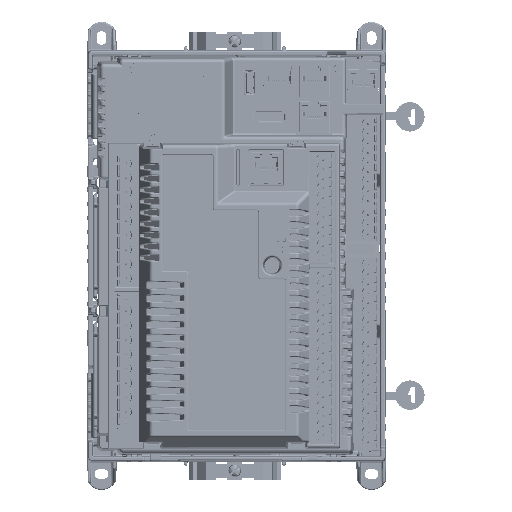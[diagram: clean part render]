
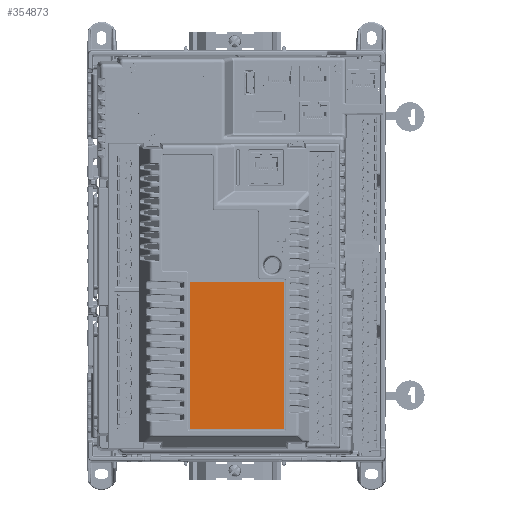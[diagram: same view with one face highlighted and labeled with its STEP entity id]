
A CAD part, left-side view. The second image highlights one B-rep face of the part: STEP entity #354873.
In plain terms, the highlighted planar face has unit normal (-1, 0, 0).
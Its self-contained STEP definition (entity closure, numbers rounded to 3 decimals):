
#43913=FACE_OUTER_BOUND('',#64486,.T.);
#64486=EDGE_LOOP('',(#320725,#320726,#320727,#320728));
#101707=LINE('',#738825,#135317);
#101709=LINE('',#738829,#135319);
#101711=LINE('',#738833,#135321);
#101713=LINE('',#738836,#135323);
#135317=VECTOR('',#470613,10.);
#135319=VECTOR('',#470617,10.);
#135321=VECTOR('',#470621,10.);
#135323=VECTOR('',#470625,10.);
#167777=VERTEX_POINT('',#738822);
#167778=VERTEX_POINT('',#738824);
#167779=VERTEX_POINT('',#738828);
#167780=VERTEX_POINT('',#738832);
#218985=EDGE_CURVE('',#167778,#167777,#101707,.T.);
#218987=EDGE_CURVE('',#167779,#167778,#101709,.T.);
#218989=EDGE_CURVE('',#167780,#167779,#101711,.T.);
#218991=EDGE_CURVE('',#167777,#167780,#101713,.T.);
#320725=ORIENTED_EDGE('',*,*,#218991,.T.);
#320726=ORIENTED_EDGE('',*,*,#218989,.T.);
#320727=ORIENTED_EDGE('',*,*,#218987,.T.);
#320728=ORIENTED_EDGE('',*,*,#218985,.T.);
#336266=PLANE('',#382952);
#354873=ADVANCED_FACE('',(#43913),#336266,.T.);
#382952=AXIS2_PLACEMENT_3D('',#738837,#470626,#470627);
#470613=DIRECTION('',(0.,0.,1.));
#470617=DIRECTION('',(0.,-1.,0.));
#470621=DIRECTION('',(0.,0.,-1.));
#470625=DIRECTION('',(0.,1.,0.));
#470626=DIRECTION('center_axis',(-1.,0.,0.));
#470627=DIRECTION('ref_axis',(0.,0.,
1.));
#738822=CARTESIAN_POINT('',(-95.7,-26.09,136.467));
#738824=CARTESIAN_POINT('',(-95.7,-26.09,58.467));
#738825=CARTESIAN_POINT('',(-95.7,-26.09,58.467));
#738828=CARTESIAN_POINT('',(-95.7,23.91,58.467));
#738829=CARTESIAN_POINT('',(-95.7,23.91,58.467));
#738832=CARTESIAN_POINT('',(-95.7,23.91,136.467));
#738833=CARTESIAN_POINT('',(-95.7,23.91,136.467));
#738836=CARTESIAN_POINT('',(-95.7,-26.09,136.467));
#738837=CARTESIAN_POINT('Origin',(-95.7,-1.09,97.467));
